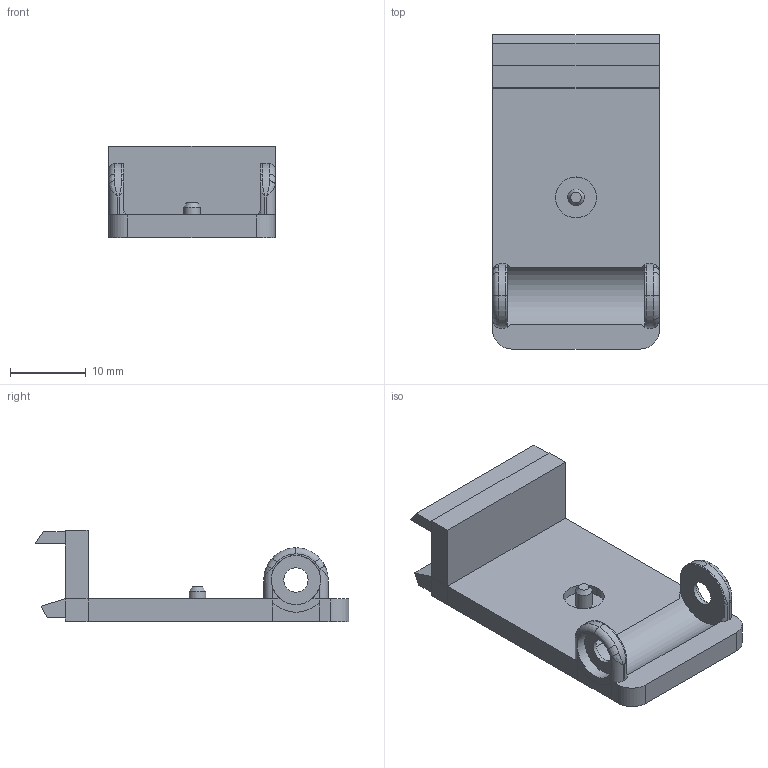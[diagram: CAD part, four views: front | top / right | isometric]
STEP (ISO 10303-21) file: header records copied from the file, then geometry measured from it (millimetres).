
FILE_DESCRIPTION(('FreeCAD Model'),'2;1');
FILE_NAME('Open CASCADE Shape Model','2026-10-18T19:16:07',('FreeCAD'),( 'FreeCAD'),'Open CASCADE STEP processor 7.9','FreeCAD','Unknown');
FILE_SCHEMA(('AUTOMOTIVE_DESIGN { 1 0 10303 214 1 1 1 1 }'));
Length unit declared in the file: millimetre
Products named in the file (1): Open CASCADE STEP translator 7.9 5
Bounding box: 22 x 41.43 x 12.05 mm (x, y, z)
Volume: 3106.6 mm3; surface area: 3113 mm2
Topology: 1 solids, 1 shells, 100 faces, 259 edges, 157 vertices
Faces by surface type: plane 52, cylinder 23, bspline 16, torus 8, cone 1
Full cylindrical faces by diameter (mm): 2.2 x1, 3.2 x2, 5.4 x1, 6.2 x1, 6.5 x1, 8 x2
Entity records: 8398 total; most frequent: CARTESIAN_POINT 6141, ORIENTED_EDGE 502, DIRECTION 440, EDGE_CURVE 251, AXIS2_PLACEMENT_3D 158, VERTEX_POINT 157, LINE 124, VECTOR 124
